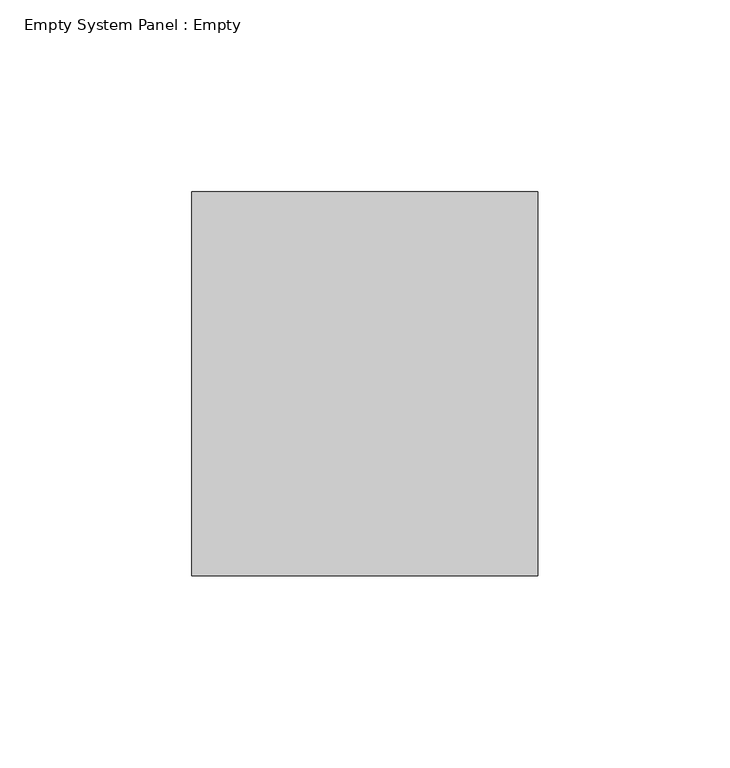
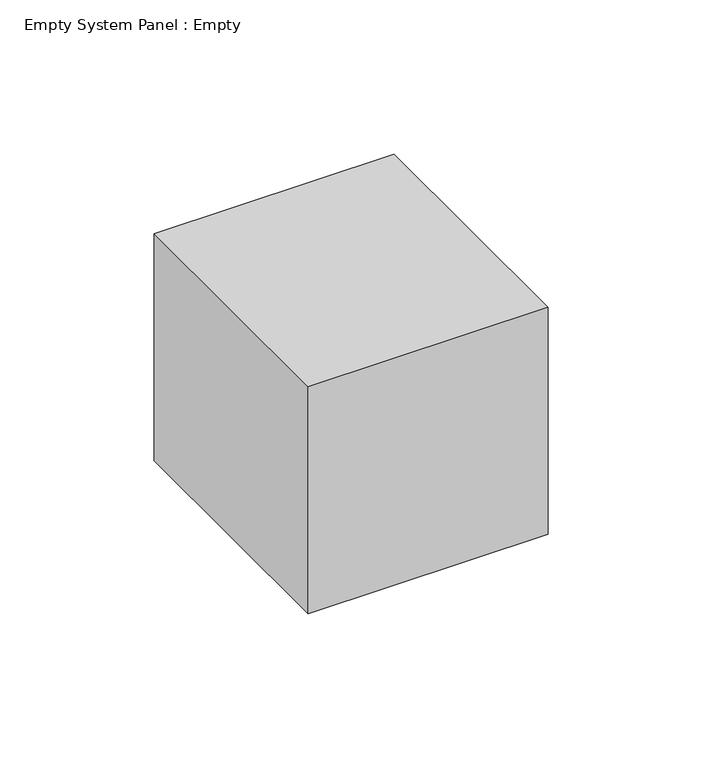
"""IFC4 building model written with IfcOpenShell, lengths in millimetres: plate geometry, Empty System Panel : Empty."""

from ifc_helpers import new_model, si_unit, origin, origin_with_axes, place, context, project, spatial, polyline, outline, extrude, source, transform, mapped, element, save


def empty_system_panel_empty_571a4fa0(model_context):
    return source(origin(), model_context, "Body", "SweptSolid", [
        extrude(outline(polyline([(44.9999998, 50.0), (-44.9999998, 50.0), (-44.9999998, 150.0), (44.9999998, 150.0), (44.9999998, 50.0)])), origin_with_axes(), (0.0, 0.0, 1.0), 90.0),
    ])


if __name__ == "__main__":
    model = new_model("IFC4")
    model_context = context("Model", 3, world=origin())
    ifc_project = project(units=[si_unit("LENGTHUNIT", "METRE", prefix="MILLI")], contexts=[model_context])
    site = spatial("IfcSite", under=ifc_project)
    building = spatial("IfcBuilding", under=site)
    placement = place(None, origin())
    empty_system_panel_empty_shape = empty_system_panel_empty_571a4fa0(model_context)
    element("IfcPlate", 1, ObjectType="Empty System Panel : Empty", at=placement, inside=building, context=model_context, shape_type="MappedRepresentation", body=[
        mapped(empty_system_panel_empty_shape, transform((0.0, 0.0, 0.0), x_axis=(1.0, 0.0, 0.0), y_axis=(0.0, 1.0, 0.0), z_axis=(0.0, 0.0, 1.0))),
    ])
    save(model, "model.ifc")
